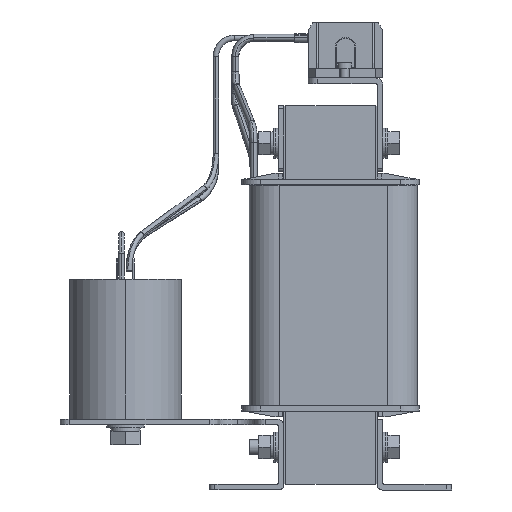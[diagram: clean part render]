
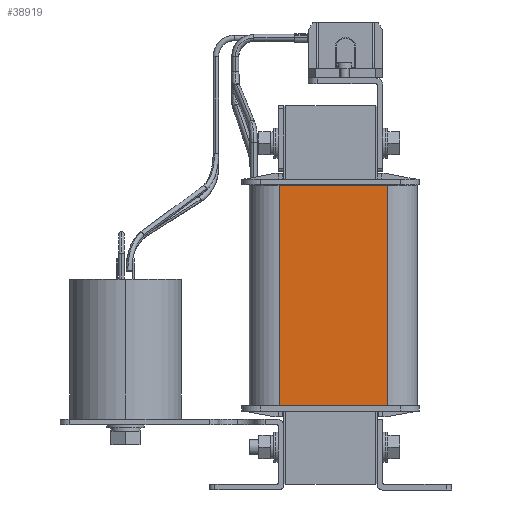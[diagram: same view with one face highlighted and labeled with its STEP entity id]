
A CAD part, left-side view. The second image highlights one B-rep face of the part: STEP entity #38919.
In plain terms, the highlighted planar face has unit normal (-1, 0, 0).
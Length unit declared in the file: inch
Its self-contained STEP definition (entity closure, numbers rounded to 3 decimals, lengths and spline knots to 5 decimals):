
#524 = VECTOR ( 'NONE', #19412, 39.37008 ) ;
#675 = CARTESIAN_POINT ( 'NONE',  ( -4.69094, -0.10434, 6.43701 ) ) ;
#10655 = DIRECTION ( 'NONE',  ( 0., 0., 1. ) ) ;
#12377 = DIRECTION ( 'NONE',  ( 0., 0., 1. ) ) ;
#19412 = DIRECTION ( 'NONE',  ( 0., 0., -1. ) ) ;
#21198 = VERTEX_POINT ( 'NONE', #43680 ) ;
#22586 = AXIS2_PLACEMENT_3D ( 'NONE', #68753, #62566, #12377 ) ;
#24842 = CARTESIAN_POINT ( 'NONE',  ( -4.69094, -0.10434, 1.79135 ) ) ;
#26189 = ORIENTED_EDGE ( 'NONE', *, *, #90068, .T. ) ;
#34601 = EDGE_CURVE ( 'NONE', #47940, #21198, #40774, .T. ) ;
#37671 = LINE ( 'NONE', #24842, #78847 ) ;
#38919 = ADVANCED_FACE ( 'NONE', ( #69703 ), #46908, .T. ) ;
#40445 = ORIENTED_EDGE ( 'NONE', *, *, #50990, .T. ) ;
#40774 = LINE ( 'NONE', #84868, #524 ) ;
#43680 = CARTESIAN_POINT ( 'NONE',  ( -4.69094, 2.19094, 1.79135 ) ) ;
#45448 = CARTESIAN_POINT ( 'NONE',  ( -4.69094, 2.19094, 6.43701 ) ) ;
#46908 = PLANE ( 'NONE',  #22586 ) ;
#47060 = ORIENTED_EDGE ( 'NONE', *, *, #34601, .T. ) ;
#47940 = VERTEX_POINT ( 'NONE', #45448 ) ;
#49967 = ORIENTED_EDGE ( 'NONE', *, *, #71588, .T. ) ;
#50990 = EDGE_CURVE ( 'NONE', #88138, #47940, #59337, .T. ) ;
#56830 = VECTOR ( 'NONE', #73091, 39.37008 ) ;
#59328 = CARTESIAN_POINT ( 'NONE',  ( -4.69094, -0.10434, 1.79135 ) ) ;
#59337 = LINE ( 'NONE', #675, #72086 ) ;
#62566 = DIRECTION ( 'NONE',  ( -1., 0., 0. ) ) ;
#68753 = CARTESIAN_POINT ( 'NONE',  ( -4.69094, -0.10434, 1.79135 ) ) ;
#69703 = FACE_OUTER_BOUND ( 'NONE', #83090, .T. ) ;
#71588 = EDGE_CURVE ( 'NONE', #21198, #74581, #73546, .T. ) ;
#72086 = VECTOR ( 'NONE', #72639, 39.37008 ) ;
#72639 = DIRECTION ( 'NONE',  ( 0., 1., 0. ) ) ;
#72833 = CARTESIAN_POINT ( 'NONE',  ( -4.69094, -0.10434, 6.43701 ) ) ;
#73091 = DIRECTION ( 'NONE',  ( 0., -1., 0. ) ) ;
#73546 = LINE ( 'NONE', #59328, #56830 ) ;
#74581 = VERTEX_POINT ( 'NONE', #85040 ) ;
#78847 = VECTOR ( 'NONE', #10655, 39.37008 ) ;
#83090 = EDGE_LOOP ( 'NONE', ( #40445, #47060, #49967, #26189 ) ) ;
#84868 = CARTESIAN_POINT ( 'NONE',  ( -4.69094, 2.19094, 1.79135 ) ) ;
#85040 = CARTESIAN_POINT ( 'NONE',  ( -4.69094, -0.10434, 1.79135 ) ) ;
#88138 = VERTEX_POINT ( 'NONE', #72833 ) ;
#90068 = EDGE_CURVE ( 'NONE', #74581, #88138, #37671, .T. ) ;
